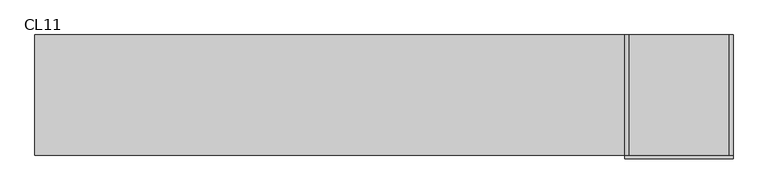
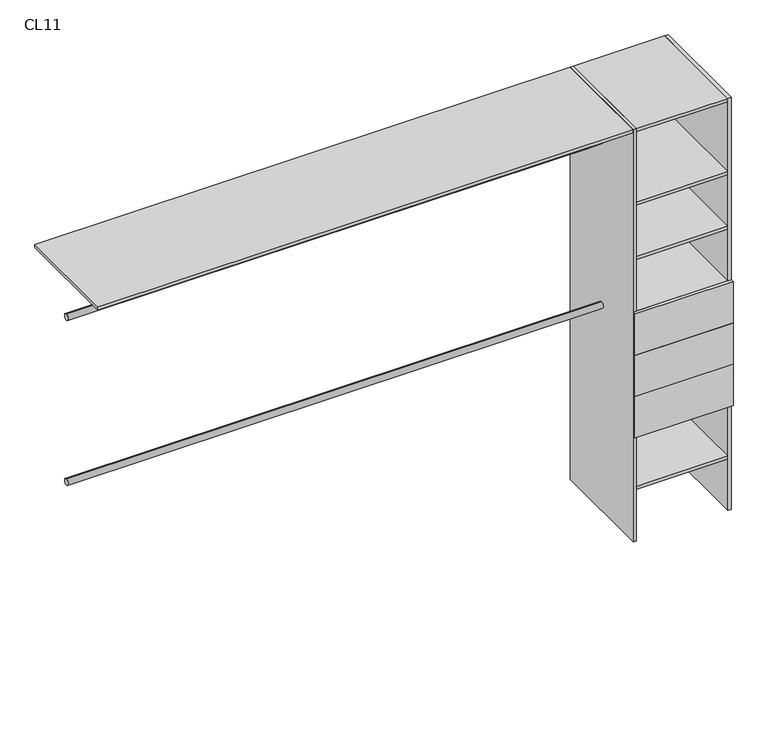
"""IFC4 building model written with IfcOpenShell, lengths in millimetres: furniture geometry, Closet 1estantes-1tubos_sin laterales : CL11."""

from ifc_helpers import new_model, si_unit, point, frame, frame_2d, origin, origin_with_axes, place, context, project, spatial, polyline, circle_curve, trimmed, segment, composite_curve, outline, extrude, source, transform, mapped, element, save


def cl11_b174cb28(model_context):
    return source(origin(), model_context, "Body", "SweptSolid", [
        extrude(outline(polyline([(225.0, 100.0), (210.0, 100.0), (210.0, 600.0), (225.0, 600.0), (225.0, 100.0)])), origin_with_axes(), (0.0, 0.0, 1.0), 2000.0),
        extrude(outline(polyline([(-210.0, 100.0), (-225.0, 100.0), (-225.0, 600.0), (-210.0, 600.0), (-210.0, 100.0)])), origin_with_axes(), (0.0, 0.0, 1.0), 2000.0),
        extrude(outline(polyline([(225.0, 100.0), (225.0, 85.0), (-225.0, 85.0), (-225.0, 100.0), (225.0, 100.0)])), frame((0.0, 0.0, 915.0), z_axis=(0.0, 0.0, 1.0), x_axis=(1.0, 0.0, 0.0)), (0.0, 0.0, 1.0), 200.0),
        extrude(outline(polyline([(225.0, 100.0), (225.0, 85.0), (-225.0, 85.0), (-225.0, 100.0), (225.0, 100.0)])), frame((0.0, 0.0, 715.0), z_axis=(0.0, 0.0, 1.0), x_axis=(1.0, 0.0, 0.0)), (0.0, 0.0, 1.0), 200.0),
        extrude(outline(polyline([(225.0, 100.0), (225.0, 85.0), (-225.0, 85.0), (-225.0, 100.0), (225.0, 100.0)])), frame((0.0, 0.0, 515.0), z_axis=(0.0, 0.0, 1.0), x_axis=(1.0, 0.0, 0.0)), (0.0, 0.0, 1.0), 200.0),
        extrude(outline(polyline([(210.0, 100.0), (-210.0, 100.0), (-210.0, 600.0), (210.0, 600.0), (210.0, 100.0)])), frame((0.0, 0.0, 1100.0), z_axis=(0.0, 0.0, 1.0), x_axis=(1.0, 0.0, 0.0)), (0.0, 0.0, 1.0), 15.0),
        extrude(outline(composite_curve([segment(trimmed(circle_curve(frame_2d((350.0, 1000.0)), 15.0), [point((350.0, 1015.0))], [point((350.0, 985.0))], False, "CARTESIAN"), True, "CONTINUOUS"), segment(trimmed(circle_curve(frame_2d((350.0, 1000.0)), 15.0), [point((350.0, 985.0))], [point((350.0, 1015.0))], False, "CARTESIAN"), True, "CONTINUOUS")], self_intersect=False)), frame((-2680.0, 0.0, 0.0), z_axis=(1.0, 0.0, 0.0), x_axis=(0.0, 1.0, 0.0)), (0.0, 0.0, 1.0), 2455.0),
        extrude(outline(composite_curve([segment(trimmed(circle_curve(frame_2d((350.0, 1800.0)), 15.0), [point((350.0, 1815.0))], [point((350.0, 1785.0))], False, "CARTESIAN"), True, "CONTINUOUS"), segment(trimmed(circle_curve(frame_2d((350.0, 1800.0)), 15.0), [point((350.0, 1785.0))], [point((350.0, 1815.0))], False, "CARTESIAN"), True, "CONTINUOUS")], self_intersect=False)), frame((-2680.0, 0.0, 0.0), z_axis=(1.0, 0.0, 0.0), x_axis=(0.0, 1.0, 0.0)), (0.0, 0.0, 1.0), 2455.0),
        extrude(outline(polyline([(210.0, 100.0), (-210.0, 100.0), (-210.0, 600.0), (210.0, 600.0), (210.0, 100.0)])), frame((0.0, 0.0, 250.0), z_axis=(0.0, 0.0, 1.0), x_axis=(1.0, 0.0, 0.0)), (0.0, 0.0, 1.0), 15.0),
        extrude(outline(polyline([(210.0, 100.0), (-210.0, 100.0), (-210.0, 600.0), (210.0, 600.0), (210.0, 100.0)])), frame((0.0, 0.0, 515.0), z_axis=(0.0, 0.0, 1.0), x_axis=(1.0, 0.0, 0.0)), (0.0, 0.0, 1.0), 15.0),
        extrude(outline(polyline([(210.0, 100.0), (-210.0, 100.0), (-210.0, 600.0), (210.0, 600.0), (210.0, 100.0)])), frame((0.0, 0.0, 1365.0), z_axis=(0.0, 0.0, 1.0), x_axis=(1.0, 0.0, 0.0)), (0.0, 0.0, 1.0), 15.0),
        extrude(outline(polyline([(210.0, 100.0), (-210.0, 100.0), (-210.0, 600.0), (210.0, 600.0), (210.0, 100.0)])), frame((0.0, 0.0, 1630.0), z_axis=(0.0, 0.0, 1.0), x_axis=(1.0, 0.0, 0.0)), (0.0, 0.0, 1.0), 15.0),
        extrude(outline(polyline([(-210.0, 100.0), (-2680.0, 100.0), (-2680.0, 600.0), (-210.0, 600.0), (-210.0, 100.0)])), frame((0.0, 0.0, 1985.0), z_axis=(0.0, 0.0, 1.0), x_axis=(1.0, 0.0, 0.0)), (0.0, 0.0, 1.0), 15.0),
        extrude(outline(polyline([(210.0, 100.0), (-210.0, 100.0), (-210.0, 600.0), (210.0, 600.0), (210.0, 100.0)])), frame((0.0, 0.0, 1985.0), z_axis=(0.0, 0.0, 1.0), x_axis=(1.0, 0.0, 0.0)), (0.0, 0.0, 1.0), 15.0),
    ])


if __name__ == "__main__":
    model = new_model("IFC4")
    model_context = context("Model", 3, world=origin())
    ifc_project = project(units=[si_unit("LENGTHUNIT", "METRE", prefix="MILLI")], contexts=[model_context])
    site = spatial("IfcSite", under=ifc_project)
    building = spatial("IfcBuilding", under=site)
    placement = place(None, origin())
    cl11_shape = cl11_b174cb28(model_context)
    element("IfcFurniture", 1, ObjectType="Closet 1estantes-1tubos_sin laterales : CL11", at=placement, inside=building, context=model_context, shape_type="MappedRepresentation", body=[
        mapped(cl11_shape, transform((0.0, 0.0, 0.0), x_axis=(1.0, 0.0, 0.0), y_axis=(0.0, 1.0, 0.0), z_axis=(0.0, 0.0, 1.0))),
    ])
    save(model, "model.ifc")
